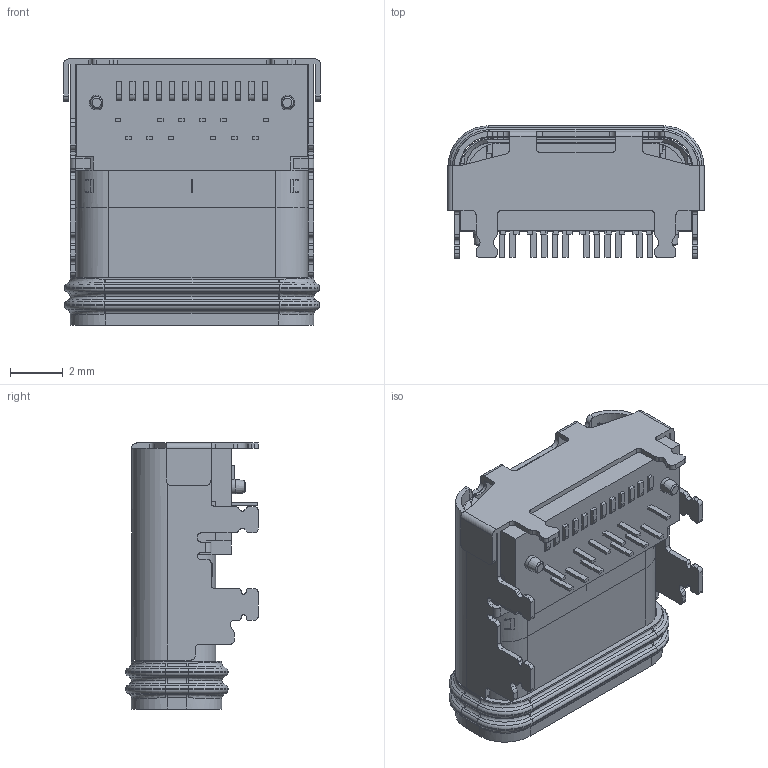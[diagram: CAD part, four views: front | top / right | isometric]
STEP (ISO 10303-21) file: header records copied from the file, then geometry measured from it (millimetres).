
FILE_DESCRIPTION((''),'2;1');
FILE_NAME('888','2024-03-16T',('WYH'),(''),'PRO/ENGINEER BY PARAMETRIC TECHNOLOGY CORPORATION, 2013040','PRO/ENGINEER BY PARAMETRIC TECHNOLOGY CORPORATION, 2013040','');
FILE_SCHEMA(('CONFIG_CONTROL_DESIGN'));
Products named in the file (1): 888
Bounding box: 9.7 x 5 x 10.05 mm (x, y, z)
Volume: 274.2 mm3; surface area: 1231 mm2
Topology: 25 solids, 29 shells, 2162 faces, 6318 edges, 4118 vertices
Faces by surface type: plane 1637, cylinder 387, cone 50, bspline 48, torus 40
Entity records: 73366 total; most frequent: CARTESIAN_POINT 15673, ORIENTED_EDGE 12636, DIRECTION 11170, EDGE_CURVE 6318, VECTOR 5076, LINE 5076, VERTEX_POINT 4118, AXIS2_PLACEMENT_3D 3047
